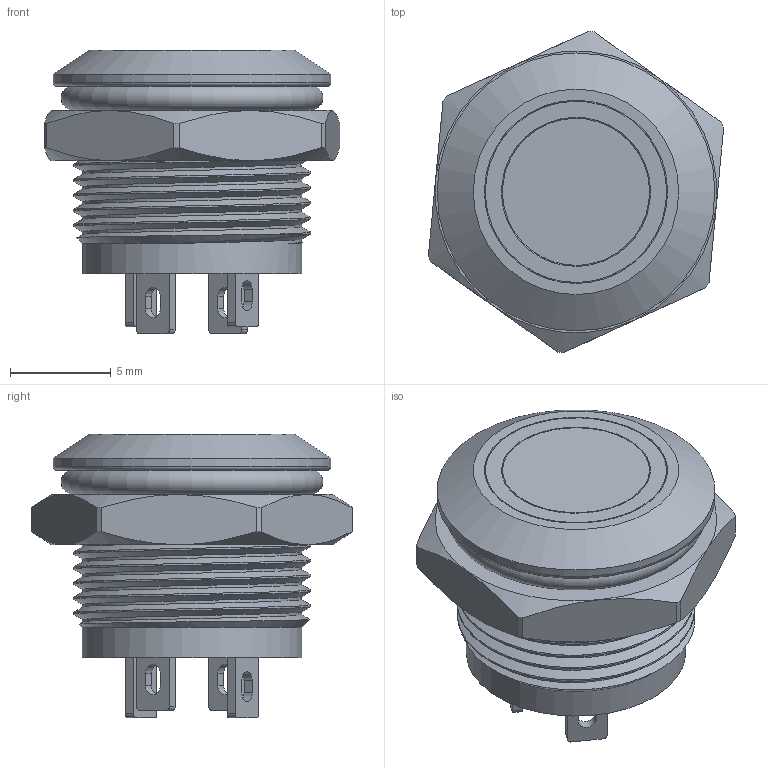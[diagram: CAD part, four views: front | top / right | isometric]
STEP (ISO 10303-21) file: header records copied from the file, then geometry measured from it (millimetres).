
FILE_DESCRIPTION(/* description */ (''),/* implementation_level */ '2;1');
FILE_NAME(/* name */ 'EJ12-271PM.stp',/* time_stamp */ '2019-11-08T13:36:28+08:00',/* author */ (''),/* organization */ (''),/* preprocessor_version */ 'ST-DEVELOPER v11',/* originating_system */ 'SIEMENS UGS NX 6.0',/* authorisation */ '');
FILE_SCHEMA (('CONFIG_CONTROL_DESIGN'));
Length unit declared in the file: millimetre
Products named in the file (8): JH8.683.066; JH8.382.109; JH7.740.176; JH7.810.267; JH7.370.470; JH8.382.297; JH8.382.299; EJ12-271PM
Assembly tree (11 placements, depth 2):
  EJ12-271PM
    JH8.382.299
    JH8.382.297
    JH7.370.470  x2
    JH7.810.267
    JH7.740.176  x4
    JH8.382.109
    JH8.683.066
Bounding box: 14.67 x 15.95 x 14.1 mm (x, y, z)
Volume: 1203.7 mm3; surface area: 2978.8 mm2
Topology: 11 solids, 11 shells, 290 faces, 714 edges, 465 vertices
Faces by surface type: plane 191, cylinder 59, cone 21, extrusion 8, torus 7, bspline 4
Full cylindrical faces by diameter (mm): 1.55 x2, 1.95 x1, 7.3 x1, 7.4 x2, 9 x2, 9.1 x1, 9.6 x1, 10.3 x1, 10.5 x1, 10.9 x11, 13.8 x1
Entity records: 8256 total; most frequent: CARTESIAN_POINT 2888, ORIENTED_EDGE 890, DIRECTION 839, EDGE_CURVE 445, VERTEX_POINT 298, AXIS2_PLACEMENT_3D 289, VECTOR 261, LINE 253
